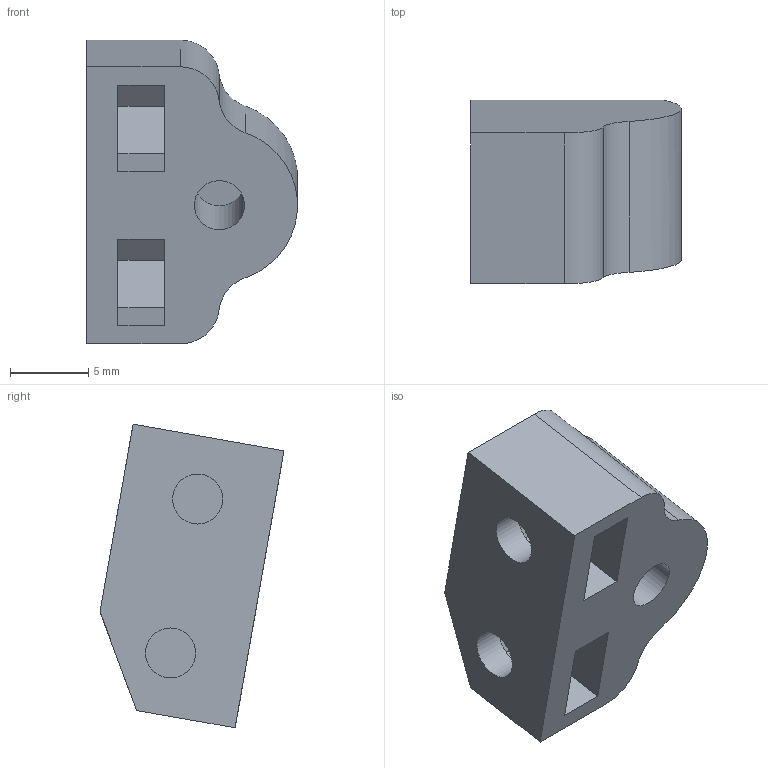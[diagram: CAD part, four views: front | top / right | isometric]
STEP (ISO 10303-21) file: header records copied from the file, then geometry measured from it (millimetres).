
FILE_DESCRIPTION(/* description */ (''),/* implementation_level */ '2;1');
FILE_NAME(/* name */ '4-03-1 Shock mount right rear.step',/* time_stamp */ '2025-05-10T22:16:37+02:00',/* author */ (''),/* organization */ (''),/* preprocessor_version */ 'ST-DEVELOPER v20.1',/* originating_system */ 'Autodesk Translation Framework v14.4.0.0',/* authorisation */ '');
FILE_SCHEMA (('AUTOMOTIVE_DESIGN { 1 0 10303 214 3 1 1 }'));
Length unit declared in the file: millimetre
Products named in the file (1): Shock mount right rear
Bounding box: 13.49 x 11.77 x 19.43 mm (x, y, z)
Volume: 1407.4 mm3; surface area: 1269.5 mm2
Topology: 1 solids, 1 shells, 31 faces, 72 edges, 48 vertices
Faces by surface type: plane 21, cylinder 10
Full cylindrical faces by diameter (mm): 3.2 x5
Entity records: 935 total; most frequent: DIRECTION 157, CARTESIAN_POINT 152, ORIENTED_EDGE 144, EDGE_CURVE 72, AXIS2_PLACEMENT_3D 53, LINE 51, VECTOR 51, VERTEX_POINT 48
